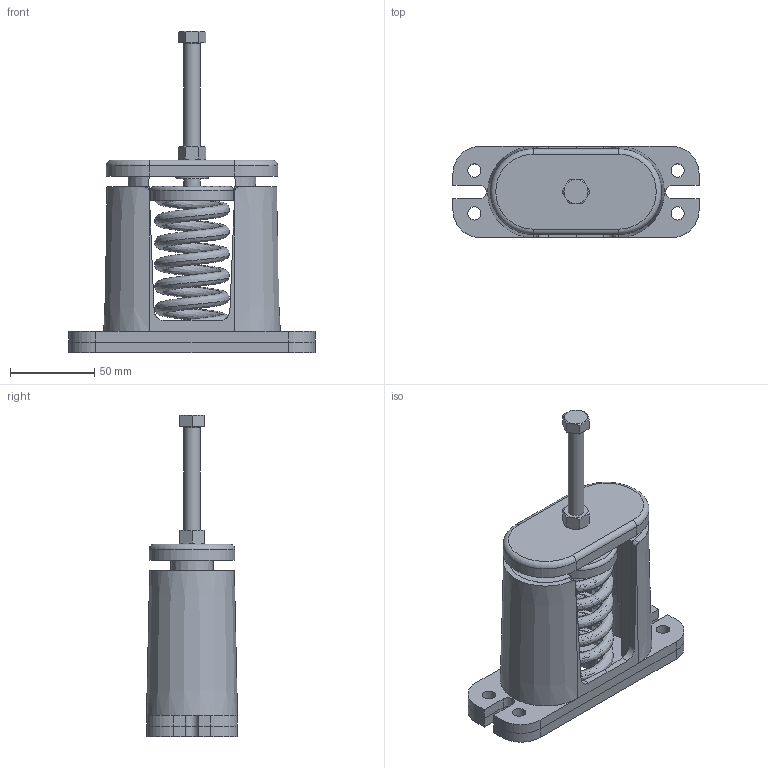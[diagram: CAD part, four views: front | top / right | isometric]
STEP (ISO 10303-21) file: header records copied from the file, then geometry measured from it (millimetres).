
FILE_DESCRIPTION(/* description */ (''),/* implementation_level */ '2;1');
FILE_NAME(/* name */ 'C:\001_Work\Designs\C MOUNTS\C-A\C-A-625.stp',/* time_stamp */ '2015-12-05T18:40:28-05:00',/* author */ ('Raj Ramoutar'),/* organization */ ('Mason Industries Inc.'),/* preprocessor_version */ 'ST-DEVELOPER v15.6',/* originating_system */ 'Autodesk Inventor 2015',/* authorisation */ '');
FILE_SCHEMA (('CONFIG_CONTROL_DESIGN'));
Length unit declared in the file: inch
Products named in the file (1): C-A-625
Bounding box: 146.05 x 53.98 x 190.84 mm (x, y, z)
Volume: 291738.1 mm3; surface area: 132725.4 mm2
Topology: 1 solids, 2 shells, 235 faces, 598 edges, 378 vertices
Faces by surface type: plane 112, cylinder 52, cone 40, bspline 22, torus 9
Full cylindrical faces by diameter (mm): 7.938 x8, 9.525 x2, 26.987 x2, 45.263 x1, 49.058 x1
Entity records: 17338 total; most frequent: CARTESIAN_POINT 11716, ORIENTED_EDGE 1130, DIRECTION 1041, EDGE_CURVE 565, AXIS2_PLACEMENT_3D 381, VERTEX_POINT 370, EDGE_LOOP 285, LINE 279
